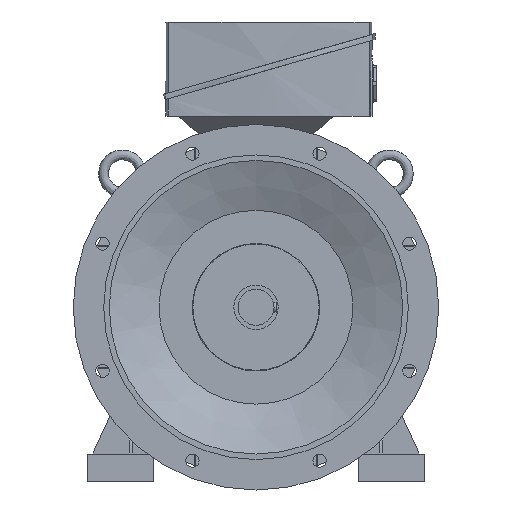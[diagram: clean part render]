
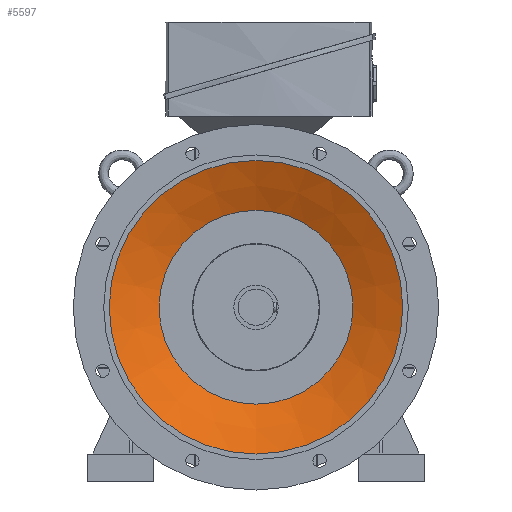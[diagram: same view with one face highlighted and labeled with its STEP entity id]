
A CAD part, left-side view. The second image highlights one B-rep face of the part: STEP entity #5597.
In plain terms, the highlighted conical face has half-angle 67.652 degrees and reference radius 265 mm.
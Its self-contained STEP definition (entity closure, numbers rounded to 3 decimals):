
#3167 = EDGE_LOOP ( 'NONE', ( #11996 ) ) ;
#3174 = EDGE_LOOP ( 'NONE', ( #11995 ) ) ;
#5597 = ADVANCED_FACE ( 'NONE', ( #55654, #55649 ), #55662, .F. ) ;
#6346 = EDGE_CURVE ( 'NONE', #46907, #46907, #28971, .T. ) ;
#11995 = ORIENTED_EDGE ( 'NONE', *, *, #6346, .T. ) ;
#11996 = ORIENTED_EDGE ( 'NONE', *, *, #20607, .F. ) ;
#20607 = EDGE_CURVE ( 'NONE', #46909, #46909, #34341, .T. ) ;
#23275 = AXIS2_PLACEMENT_3D ( 'NONE', #54358, #54386, #54393 ) ;
#24076 = AXIS2_PLACEMENT_3D ( 'NONE', #31267, #31268, #31269 ) ;
#24302 = AXIS2_PLACEMENT_3D ( 'NONE', #39151, #39152, #39153 ) ;
#28971 = CIRCLE ( 'NONE', #24076, 265. ) ;
#31267 = CARTESIAN_POINT ( 'NONE',  ( -104., 0., 0. ) ) ;
#31268 = DIRECTION ( 'NONE',  ( -1., 0., 0. ) ) ;
#31269 = DIRECTION ( 'NONE',  ( 0., 0., 1. ) ) ;
#34341 = CIRCLE ( 'NONE', #24302, 175. ) ;
#39151 = CARTESIAN_POINT ( 'NONE',  ( -67., 0., 0. ) ) ;
#39152 = DIRECTION ( 'NONE',  ( -1., 0., 0. ) ) ;
#39153 = DIRECTION ( 'NONE',  ( 0., 0., 1. ) ) ;
#45776 = CARTESIAN_POINT ( 'NONE',  ( -104., 0., 265. ) ) ;
#45777 = CARTESIAN_POINT ( 'NONE',  ( -67., 0., 175. ) ) ;
#46907 = VERTEX_POINT ( 'NONE', #45776 ) ;
#46909 = VERTEX_POINT ( 'NONE', #45777 ) ;
#54358 = CARTESIAN_POINT ( 'NONE',  ( -104., 0., 0. ) ) ;
#54386 = DIRECTION ( 'NONE',  ( -1., 0., 0. ) ) ;
#54393 = DIRECTION ( 'NONE',  ( 0., 0., 1. ) ) ;
#55649 = FACE_BOUND ( 'NONE', #3167, .T. ) ;
#55654 = FACE_OUTER_BOUND ( 'NONE', #3174, .T. ) ;
#55662 = CONICAL_SURFACE ( 'NONE', #23275, 265., 1.181 ) ;
